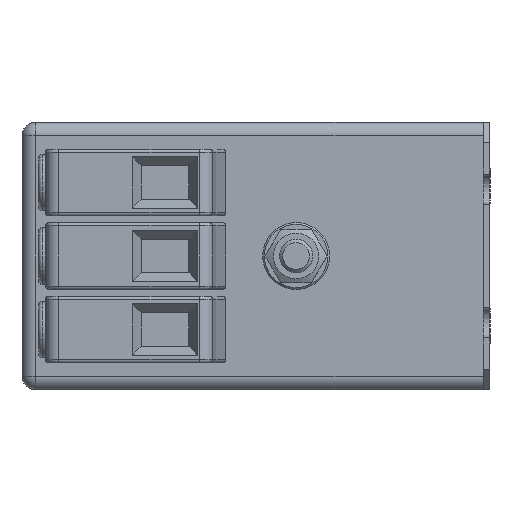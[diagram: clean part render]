
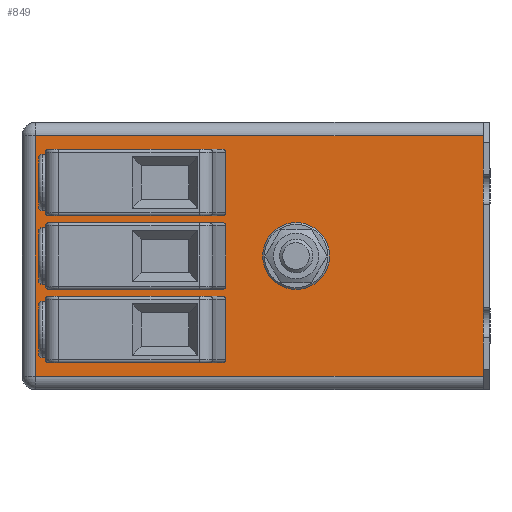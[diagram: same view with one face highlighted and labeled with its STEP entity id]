
A CAD part, left-side view. The second image highlights one B-rep face of the part: STEP entity #849.
In plain terms, the highlighted planar face has unit normal (-1, 0, 0).
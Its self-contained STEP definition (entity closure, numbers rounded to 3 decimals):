
#582=CARTESIAN_POINT('',(-80.,-6.,-15.75));
#583=VERTEX_POINT('',#582);
#584=CARTESIAN_POINT('',(-80.0,-6.,-20.));
#585=DIRECTION('',(1.0,0.0,0.0));
#586=DIRECTION('',(0.0,0.0,1.0));
#587=AXIS2_PLACEMENT_3D('',#584,#585,#586);
#588=CIRCLE('',#587,4.25);
#589=EDGE_CURVE('',#583,#583,#588,.T.);
#597=CARTESIAN_POINT('',(-80.0,35.0,0.0));
#598=DIRECTION('',(-1.0,0.0,0.0));
#599=DIRECTION('',(0.0,0.0,1.0));
#600=AXIS2_PLACEMENT_3D('',#597,#598,#599);
#601=PLANE('',#600);
#602=CARTESIAN_POINT('',(-80.0,33.0,-2.0));
#603=VERTEX_POINT('',#602);
#604=CARTESIAN_POINT('',(-80.0,-34.0,-2.0));
#605=VERTEX_POINT('',#604);
#606=CARTESIAN_POINT('',(-80.0,33.0,-2.0));
#607=DIRECTION('',(0.0,-1.0,0.0));
#608=VECTOR('',#607,67.0);
#609=LINE('',#606,#608);
#610=EDGE_CURVE('',#603,#605,#609,.T.);
#611=ORIENTED_EDGE('',*,*,#610,.F.);
#612=CARTESIAN_POINT('',(-80.0,33.0,-38.0));
#613=VERTEX_POINT('',#612);
#614=CARTESIAN_POINT('',(-80.0,33.0,-38.0));
#615=DIRECTION('',(0.0,0.0,1.0));
#616=VECTOR('',#615,36.0);
#617=LINE('',#614,#616);
#618=EDGE_CURVE('',#613,#603,#617,.T.);
#619=ORIENTED_EDGE('',*,*,#618,.F.);
#620=CARTESIAN_POINT('',(-80.0,-34.0,-38.0));
#621=VERTEX_POINT('',#620);
#622=CARTESIAN_POINT('',(-80.0,-34.0,-38.0));
#623=DIRECTION('',(0.0,1.0,0.0));
#624=VECTOR('',#623,67.0);
#625=LINE('',#622,#624);
#626=EDGE_CURVE('',#621,#613,#625,.T.);
#627=ORIENTED_EDGE('',*,*,#626,.F.);
#628=CARTESIAN_POINT('',(-80.0,-34.0,-38.0));
#629=DIRECTION('',(0.0,0.0,1.0));
#630=VECTOR('',#629,36.0);
#631=LINE('',#628,#630);
#632=EDGE_CURVE('',#621,#605,#631,.T.);
#633=ORIENTED_EDGE('',*,*,#632,.T.);
#634=EDGE_LOOP('',(#611,#619,#627,#633));
#635=FACE_OUTER_BOUND('',#634,.T.);
#636=CARTESIAN_POINT('',(-80.0,5.,-26.0));
#637=VERTEX_POINT('',#636);
#638=CARTESIAN_POINT('',(-80.0,4.5,-26.5));
#639=VERTEX_POINT('',#638);
#640=CARTESIAN_POINT('',(-80.,5.,-26.5));
#641=DIRECTION('',(1.0,0.,0.));
#642=DIRECTION('',(0.,-0.707,0.707));
#643=AXIS2_PLACEMENT_3D('',#640,#641,#642);
#644=CIRCLE('',#643,0.5);
#645=EDGE_CURVE('',#637,#639,#644,.T.);
#646=ORIENTED_EDGE('',*,*,#645,.T.);
#647=CARTESIAN_POINT('',(-80.0,4.5,-35.5));
#648=VERTEX_POINT('',#647);
#649=CARTESIAN_POINT('',(-80.0,4.5,-26.5));
#650=DIRECTION('',(0.0,0.0,-1.0));
#651=VECTOR('',#650,9.0);
#652=LINE('',#649,#651);
#653=EDGE_CURVE('',#639,#648,#652,.T.);
#654=ORIENTED_EDGE('',*,*,#653,.T.);
#655=CARTESIAN_POINT('',(-80.0,5.,-36.0));
#656=VERTEX_POINT('',#655);
#657=CARTESIAN_POINT('',(-80.,5.,-35.5));
#658=DIRECTION('',(1.0,0.,0.));
#659=DIRECTION('',(0.,-0.707,-0.707));
#660=AXIS2_PLACEMENT_3D('',#657,#658,#659);
#661=CIRCLE('',#660,0.5);
#662=EDGE_CURVE('',#648,#656,#661,.T.);
#663=ORIENTED_EDGE('',*,*,#662,.T.);
#664=CARTESIAN_POINT('',(-80.0,31.,-36.0));
#665=VERTEX_POINT('',#664);
#666=CARTESIAN_POINT('',(-80.0,5.,-36.0));
#667=DIRECTION('',(0.0,1.0,0.0));
#668=VECTOR('',#667,26.);
#669=LINE('',#666,#668);
#670=EDGE_CURVE('',#656,#665,#669,.T.);
#671=ORIENTED_EDGE('',*,*,#670,.T.);
#672=CARTESIAN_POINT('',(-80.0,31.5,-35.5));
#673=VERTEX_POINT('',#672);
#674=CARTESIAN_POINT('',(-80.0,31.,-35.5));
#675=DIRECTION('',(1.0,0.,0.));
#676=DIRECTION('',(0.,0.707,-0.707));
#677=AXIS2_PLACEMENT_3D('',#674,#675,#676);
#678=CIRCLE('',#677,0.5);
#679=EDGE_CURVE('',#665,#673,#678,.T.);
#680=ORIENTED_EDGE('',*,*,#679,.T.);
#681=CARTESIAN_POINT('',(-80.0,31.5,-26.5));
#682=VERTEX_POINT('',#681);
#683=CARTESIAN_POINT('',(-80.0,31.5,-35.5));
#684=DIRECTION('',(0.0,0.0,1.0));
#685=VECTOR('',#684,9.0);
#686=LINE('',#683,#685);
#687=EDGE_CURVE('',#673,#682,#686,.T.);
#688=ORIENTED_EDGE('',*,*,#687,.T.);
#689=CARTESIAN_POINT('',(-80.0,31.,-26.0));
#690=VERTEX_POINT('',#689);
#691=CARTESIAN_POINT('',(-80.0,31.,-26.5));
#692=DIRECTION('',(1.0,0.,0.));
#693=DIRECTION('',(0.,0.707,0.707));
#694=AXIS2_PLACEMENT_3D('',#691,#692,#693);
#695=CIRCLE('',#694,0.5);
#696=EDGE_CURVE('',#682,#690,#695,.T.);
#697=ORIENTED_EDGE('',*,*,#696,.T.);
#698=CARTESIAN_POINT('',(-80.0,31.,-26.0));
#699=DIRECTION('',(0.0,-1.0,0.0));
#700=VECTOR('',#699,26.);
#701=LINE('',#698,#700);
#702=EDGE_CURVE('',#690,#637,#701,.T.);
#703=ORIENTED_EDGE('',*,*,#702,.T.);
#704=EDGE_LOOP('',(#646,#654,#663,#671,#680,#688,#697,#703));
#705=FACE_BOUND('',#704,.T.);
#706=CARTESIAN_POINT('',(-80.0,5.,-4.));
#707=VERTEX_POINT('',#706);
#708=CARTESIAN_POINT('',(-80.0,4.5,-4.5));
#709=VERTEX_POINT('',#708);
#710=CARTESIAN_POINT('',(-80.,5.,-4.5));
#711=DIRECTION('',(1.0,0.,0.));
#712=DIRECTION('',(0.,-0.707,0.707));
#713=AXIS2_PLACEMENT_3D('',#710,#711,#712);
#714=CIRCLE('',#713,0.5);
#715=EDGE_CURVE('',#707,#709,#714,.T.);
#716=ORIENTED_EDGE('',*,*,#715,.T.);
#717=CARTESIAN_POINT('',(-80.0,4.5,-13.5));
#718=VERTEX_POINT('',#717);
#719=CARTESIAN_POINT('',(-80.0,4.5,-4.5));
#720=DIRECTION('',(0.0,0.0,-1.0));
#721=VECTOR('',#720,9.);
#722=LINE('',#719,#721);
#723=EDGE_CURVE('',#709,#718,#722,.T.);
#724=ORIENTED_EDGE('',*,*,#723,.T.);
#725=CARTESIAN_POINT('',(-80.0,5.,-14.0));
#726=VERTEX_POINT('',#725);
#727=CARTESIAN_POINT('',(-80.,5.,-13.5));
#728=DIRECTION('',(1.0,0.,0.));
#729=DIRECTION('',(0.,-0.707,-0.707));
#730=AXIS2_PLACEMENT_3D('',#727,#728,#729);
#731=CIRCLE('',#730,0.5);
#732=EDGE_CURVE('',#718,#726,#731,.T.);
#733=ORIENTED_EDGE('',*,*,#732,.T.);
#734=CARTESIAN_POINT('',(-80.0,31.,-14.0));
#735=VERTEX_POINT('',#734);
#736=CARTESIAN_POINT('',(-80.0,5.,-14.0));
#737=DIRECTION('',(0.0,1.0,0.0));
#738=VECTOR('',#737,26.);
#739=LINE('',#736,#738);
#740=EDGE_CURVE('',#726,#735,#739,.T.);
#741=ORIENTED_EDGE('',*,*,#740,.T.);
#742=CARTESIAN_POINT('',(-80.0,31.5,-13.5));
#743=VERTEX_POINT('',#742);
#744=CARTESIAN_POINT('',(-80.0,31.,-13.5));
#745=DIRECTION('',(1.0,0.,0.));
#746=DIRECTION('',(0.,0.707,-0.707));
#747=AXIS2_PLACEMENT_3D('',#744,#745,#746);
#748=CIRCLE('',#747,0.5);
#749=EDGE_CURVE('',#735,#743,#748,.T.);
#750=ORIENTED_EDGE('',*,*,#749,.T.);
#751=CARTESIAN_POINT('',(-80.0,31.5,-4.5));
#752=VERTEX_POINT('',#751);
#753=CARTESIAN_POINT('',(-80.0,31.5,-13.5));
#754=DIRECTION('',(0.0,0.0,1.0));
#755=VECTOR('',#754,9.);
#756=LINE('',#753,#755);
#757=EDGE_CURVE('',#743,#752,#756,.T.);
#758=ORIENTED_EDGE('',*,*,#757,.T.);
#759=CARTESIAN_POINT('',(-80.0,31.,-4.));
#760=VERTEX_POINT('',#759);
#761=CARTESIAN_POINT('',(-80.0,31.,-4.5));
#762=DIRECTION('',(1.0,0.,0.));
#763=DIRECTION('',(0.,0.707,0.707));
#764=AXIS2_PLACEMENT_3D('',#761,#762,#763);
#765=CIRCLE('',#764,0.5);
#766=EDGE_CURVE('',#752,#760,#765,.T.);
#767=ORIENTED_EDGE('',*,*,#766,.T.);
#768=CARTESIAN_POINT('',(-80.0,31.,-4.));
#769=DIRECTION('',(0.0,-1.0,0.0));
#770=VECTOR('',#769,26.);
#771=LINE('',#768,#770);
#772=EDGE_CURVE('',#760,#707,#771,.T.);
#773=ORIENTED_EDGE('',*,*,#772,.T.);
#774=EDGE_LOOP('',(#716,#724,#733,#741,#750,#758,#767,#773));
#775=FACE_BOUND('',#774,.T.);
#776=CARTESIAN_POINT('',(-80.0,5.,-15.0));
#777=VERTEX_POINT('',#776);
#778=CARTESIAN_POINT('',(-80.0,4.5,-15.5));
#779=VERTEX_POINT('',#778);
#780=CARTESIAN_POINT('',(-80.,5.,-15.5));
#781=DIRECTION('',(1.0,0.,0.));
#782=DIRECTION('',(0.,-0.707,0.707));
#783=AXIS2_PLACEMENT_3D('',#780,#781,#782);
#784=CIRCLE('',#783,0.5);
#785=EDGE_CURVE('',#777,#779,#784,.T.);
#786=ORIENTED_EDGE('',*,*,#785,.T.);
#787=CARTESIAN_POINT('',(-80.0,4.5,-24.5));
#788=VERTEX_POINT('',#787);
#789=CARTESIAN_POINT('',(-80.0,4.5,-15.5));
#790=DIRECTION('',(0.0,0.0,-1.0));
#791=VECTOR('',#790,9.0);
#792=LINE('',#789,#791);
#793=EDGE_CURVE('',#779,#788,#792,.T.);
#794=ORIENTED_EDGE('',*,*,#793,.T.);
#795=CARTESIAN_POINT('',(-80.0,5.,-25.0));
#796=VERTEX_POINT('',#795);
#797=CARTESIAN_POINT('',(-80.,5.,-24.5));
#798=DIRECTION('',(1.0,0.,0.));
#799=DIRECTION('',(0.,-0.707,-0.707));
#800=AXIS2_PLACEMENT_3D('',#797,#798,#799);
#801=CIRCLE('',#800,0.5);
#802=EDGE_CURVE('',#788,#796,#801,.T.);
#803=ORIENTED_EDGE('',*,*,#802,.T.);
#804=CARTESIAN_POINT('',(-80.0,31.,-25.0));
#805=VERTEX_POINT('',#804);
#806=CARTESIAN_POINT('',(-80.0,5.,-25.0));
#807=DIRECTION('',(0.0,1.0,0.0));
#808=VECTOR('',#807,26.);
#809=LINE('',#806,#808);
#810=EDGE_CURVE('',#796,#805,#809,.T.);
#811=ORIENTED_EDGE('',*,*,#810,.T.);
#812=CARTESIAN_POINT('',(-80.0,31.5,-24.5));
#813=VERTEX_POINT('',#812);
#814=CARTESIAN_POINT('',(-80.0,31.,-24.5));
#815=DIRECTION('',(1.0,0.,0.));
#816=DIRECTION('',(0.,0.707,-0.707));
#817=AXIS2_PLACEMENT_3D('',#814,#815,#816);
#818=CIRCLE('',#817,0.5);
#819=EDGE_CURVE('',#805,#813,#818,.T.);
#820=ORIENTED_EDGE('',*,*,#819,.T.);
#821=CARTESIAN_POINT('',(-80.0,31.5,-15.5));
#822=VERTEX_POINT('',#821);
#823=CARTESIAN_POINT('',(-80.0,31.5,-24.5));
#824=DIRECTION('',(0.0,0.0,1.0));
#825=VECTOR('',#824,9.0);
#826=LINE('',#823,#825);
#827=EDGE_CURVE('',#813,#822,#826,.T.);
#828=ORIENTED_EDGE('',*,*,#827,.T.);
#829=CARTESIAN_POINT('',(-80.0,31.,-15.0));
#830=VERTEX_POINT('',#829);
#831=CARTESIAN_POINT('',(-80.0,31.,-15.5));
#832=DIRECTION('',(1.0,0.,0.));
#833=DIRECTION('',(0.,0.707,0.707));
#834=AXIS2_PLACEMENT_3D('',#831,#832,#833);
#835=CIRCLE('',#834,0.5);
#836=EDGE_CURVE('',#822,#830,#835,.T.);
#837=ORIENTED_EDGE('',*,*,#836,.T.);
#838=CARTESIAN_POINT('',(-80.0,31.,-15.0));
#839=DIRECTION('',(0.0,-1.0,0.0));
#840=VECTOR('',#839,26.);
#841=LINE('',#838,#840);
#842=EDGE_CURVE('',#830,#777,#841,.T.);
#843=ORIENTED_EDGE('',*,*,#842,.T.);
#844=EDGE_LOOP('',(#786,#794,#803,#811,#820,#828,#837,#843));
#845=FACE_BOUND('',#844,.T.);
#846=ORIENTED_EDGE('',*,*,#589,.T.);
#847=EDGE_LOOP('',(#846));
#848=FACE_BOUND('',#847,.T.);
#849=ADVANCED_FACE('',(#635,#705,#775,#845,#848),#601,.T.);
